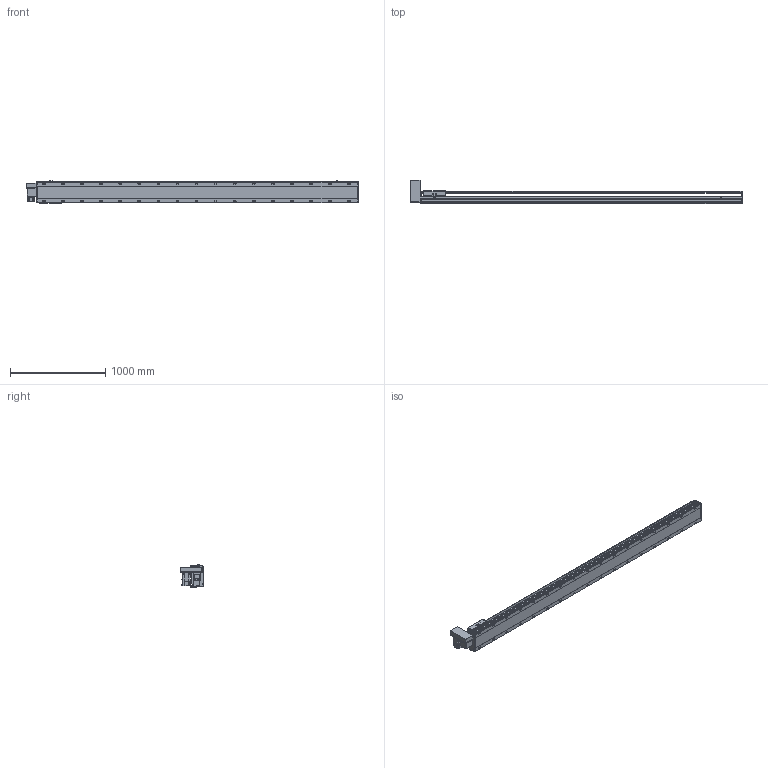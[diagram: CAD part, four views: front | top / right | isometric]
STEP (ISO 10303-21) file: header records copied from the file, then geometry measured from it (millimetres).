
FILE_DESCRIPTION(/* description */ ('STEP AP214'),/* implementation_level */ '2;1');
FILE_NAME(/* name */ 'PBS220-P40-S3000-RU-T75-C1-N(0)',/* time_stamp */ '2022-06-13T03:00:53+02:00',/* author */ ('License CC BY-ND 4.0'),/* organization */ ('CADENAS'),/* preprocessor_version */ 'ST-DEVELOPER v18.102',/* originating_system */ 'PARTsolutions',/* authorisation */ ' ');
FILE_SCHEMA (('AUTOMOTIVE_DESIGN {1 0 10303 214 3 1 1}'));
Length unit declared in the file: millimetre
Products named in the file (7): PBS220-P40-S3000-RU-T75-C1-N(0); PBS220_sensor; PBS220_plant; PBS220_sliser; T75-p1; PBS220T-RU_motors; PBS220-S3000()_body
Assembly tree (8 placements, depth 2):
  PBS220-P40-S3000-RU-T75-C1-N(0)
    PBS220_sensor  x3
    PBS220_plant
    PBS220_sliser
    T75-p1
    PBS220T-RU_motors
    PBS220-S3000()_body
Bounding box: 3484 x 247 x 238.5 mm (x, y, z)
Volume: 48396081.2 mm3; surface area: 4391206.3 mm2
Topology: 8 solids, 8 shells, 1022 faces, 2648 edges, 1720 vertices
Faces by surface type: plane 634, cylinder 330, cone 58
Full cylindrical faces by diameter (mm): 2.013 x4, 4.5 x14, 4.917 x4, 6 x7, 6.647 x8, 8 x10, 8.376 x34, 8.5 x34, 10 x6, 14 x34, 38 x2, 40 x1, 70 x1
Entity records: 28437 total; most frequent: CARTESIAN_POINT 5086, DIRECTION 4941, ORIENTED_EDGE 4430, EDGE_CURVE 2215, AXIS2_PLACEMENT_3D 1789, VERTEX_POINT 1560, LINE 1363, VECTOR 1363
